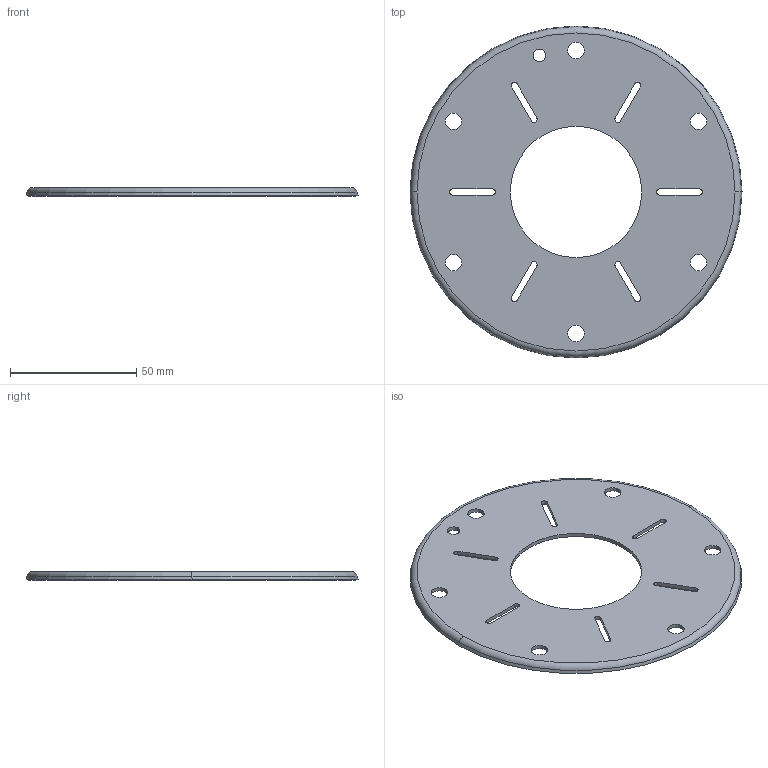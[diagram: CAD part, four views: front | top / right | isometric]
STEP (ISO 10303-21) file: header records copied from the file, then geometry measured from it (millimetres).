
FILE_DESCRIPTION (( 'STEP AP214' ), '1' );
FILE_NAME ('0438 Reibscheibe.STEP', '2025-03-26T08:49:03', ( '' ), ( '' ), 'SwSTEP 2.0', 'SolidWorks 2022', '' );
FILE_SCHEMA (( 'AUTOMOTIVE_DESIGN' ));
Length unit declared in the file: millimetre
Products named in the file (1): 0438 Reibscheibe
Bounding box: 131.5 x 131.5 x 3.5 mm (x, y, z)
Volume: 16941.2 mm3; surface area: 24097.2 mm2
Topology: 1 solids, 1 shells, 58 faces, 160 edges, 104 vertices
Faces by surface type: cylinder 34, plane 14, cone 6, torus 4
Entity records: 1974 total; most frequent: DIRECTION 362, CARTESIAN_POINT 323, ORIENTED_EDGE 320, EDGE_CURVE 160, AXIS2_PLACEMENT_3D 143, VERTEX_POINT 104, EDGE_LOOP 86, CIRCLE 84
